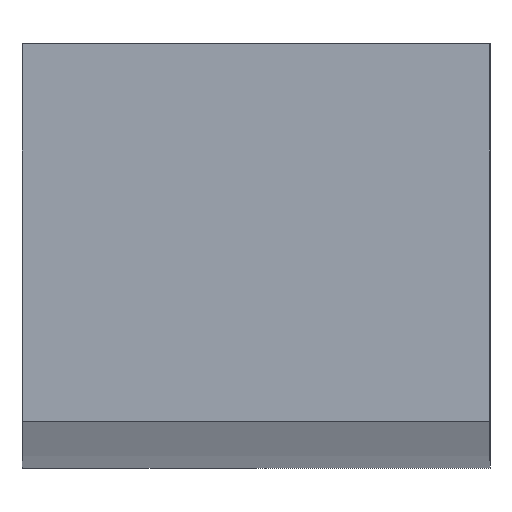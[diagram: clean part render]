
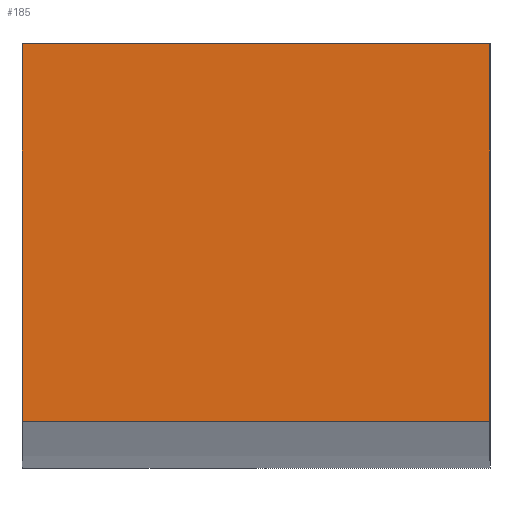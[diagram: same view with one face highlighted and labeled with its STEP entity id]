
A CAD part, left-side view. The second image highlights one B-rep face of the part: STEP entity #185.
In plain terms, the highlighted planar face has unit normal (-1, 0, 0).
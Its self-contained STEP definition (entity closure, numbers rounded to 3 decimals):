
#22=PLANE('',#210);
#34=LINE('',#288,#54);
#36=LINE('',#292,#56);
#37=LINE('',#294,#57);
#38=LINE('',#296,#58);
#54=VECTOR('',#237,1000.);
#56=VECTOR('',#241,1000.);
#57=VECTOR('',#242,1000.);
#58=VECTOR('',#243,1000.);
#80=ORIENTED_EDGE('',*,*,#126,.T.);
#81=ORIENTED_EDGE('',*,*,#127,.F.);
#82=ORIENTED_EDGE('',*,*,#128,.F.);
#83=ORIENTED_EDGE('',*,*,#124,.T.);
#124=EDGE_CURVE('',#147,#146,#34,.T.);
#126=EDGE_CURVE('',#146,#148,#36,.T.);
#127=EDGE_CURVE('',#149,#148,#37,.T.);
#128=EDGE_CURVE('',#147,#149,#38,.T.);
#146=VERTEX_POINT('',#287);
#147=VERTEX_POINT('',#289);
#148=VERTEX_POINT('',#293);
#149=VERTEX_POINT('',#295);
#163=EDGE_LOOP('',(#80,#81,#82,#83));
#173=FACE_BOUND('',#163,.T.);
#185=ADVANCED_FACE('',(#173),#22,.F.);
#210=AXIS2_PLACEMENT_3D('',#291,#239,#240);
#237=DIRECTION('',(0.,1.,0.));
#239=DIRECTION('',(1.,0.,0.));
#240=DIRECTION('',(0.,0.,-1.));
#241=DIRECTION('',(0.,0.,-1.));
#242=DIRECTION('',(0.,1.,0.));
#243=DIRECTION('',(0.,0.,-1.));
#287=CARTESIAN_POINT('',(0.,2.,3.226));
#288=CARTESIAN_POINT('',(0.,-2.,3.226));
#289=CARTESIAN_POINT('',(0.,-2.,3.226));
#291=CARTESIAN_POINT('',(0.,-2.,3.226));
#292=CARTESIAN_POINT('',(0.,2.,3.226));
#293=CARTESIAN_POINT('',(0.,2.,0.));
#294=CARTESIAN_POINT('',(0.,-2.,0.));
#295=CARTESIAN_POINT('',(0.,-2.,0.));
#296=CARTESIAN_POINT('',(0.,-2.,3.226));
